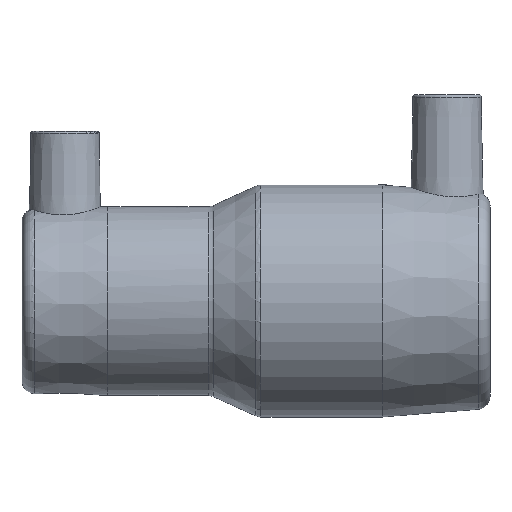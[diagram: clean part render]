
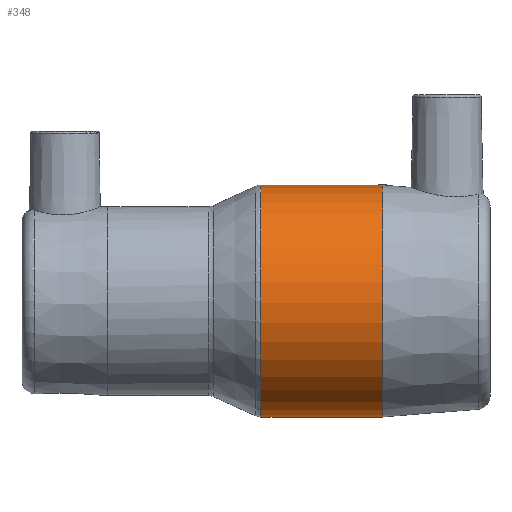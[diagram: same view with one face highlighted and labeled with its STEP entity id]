
A CAD part, front view. The second image highlights one B-rep face of the part: STEP entity #348.
In plain terms, the highlighted cylindrical face has radius 27 mm (diameter 54 mm), a full revolution.
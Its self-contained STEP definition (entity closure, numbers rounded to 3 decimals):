
#30=CYLINDRICAL_SURFACE('',#396,27.);
#49=B_SPLINE_CURVE_WITH_KNOTS('',3,(#614,#615,#616,#617,#618,#619,#620),
 .UNSPECIFIED.,.F.,.F.,(4,1,1,1,4),(0.,0.001,0.002,
0.002,0.003),.UNSPECIFIED.);
#60=ORIENTED_EDGE('',*,*,#129,.T.);
#61=ORIENTED_EDGE('',*,*,#123,.T.);
#62=ORIENTED_EDGE('',*,*,#130,.T.);
#123=EDGE_CURVE('',#158,#159,#190,.T.);
#129=EDGE_CURVE('',#163,#163,#193,.T.);
#130=EDGE_CURVE('',#159,#158,#49,.T.);
#158=VERTEX_POINT('',#576);
#159=VERTEX_POINT('',#577);
#163=VERTEX_POINT('',#613);
#190=CIRCLE('',#392,27.);
#193=CIRCLE('',#397,27.);
#222=EDGE_LOOP('',(#60));
#223=EDGE_LOOP('',(#61,#62));
#283=FACE_BOUND('',#222,.T.);
#284=FACE_BOUND('',#223,.T.);
#348=ADVANCED_FACE('',(#283,#284),#30,.T.);
#392=AXIS2_PLACEMENT_3D('',#575,#455,#456);
#396=AXIS2_PLACEMENT_3D('',#611,#463,#464);
#397=AXIS2_PLACEMENT_3D('',#612,#465,#466);
#455=DIRECTION('',(-1.,0.,0.));
#456=DIRECTION('',(0.,0.,1.));
#463=DIRECTION('',(-1.,0.,0.));
#464=DIRECTION('',(0.,0.,1.));
#465=DIRECTION('',(1.,0.,0.));
#466=DIRECTION('',(0.,0.,-1.));
#575=CARTESIAN_POINT('',(34.5,0.,0.));
#576=CARTESIAN_POINT('',(34.5,1.,26.981));
#577=CARTESIAN_POINT('',(34.5,-1.,26.981));
#611=CARTESIAN_POINT('',(-60.,0.,0.));
#612=CARTESIAN_POINT('',(6.15,0.,0.));
#613=CARTESIAN_POINT('',(6.15,0.,-27.));
#614=CARTESIAN_POINT('',(34.5,-1.,26.981));
#615=CARTESIAN_POINT('',(34.236,-1.,26.981));
#616=CARTESIAN_POINT('',(33.718,-0.783,26.991));
#617=CARTESIAN_POINT('',(33.391,-0.001,27.005));
#618=CARTESIAN_POINT('',(33.717,0.783,26.991));
#619=CARTESIAN_POINT('',(34.236,1.,26.981));
#620=CARTESIAN_POINT('',(34.5,1.,26.981));
